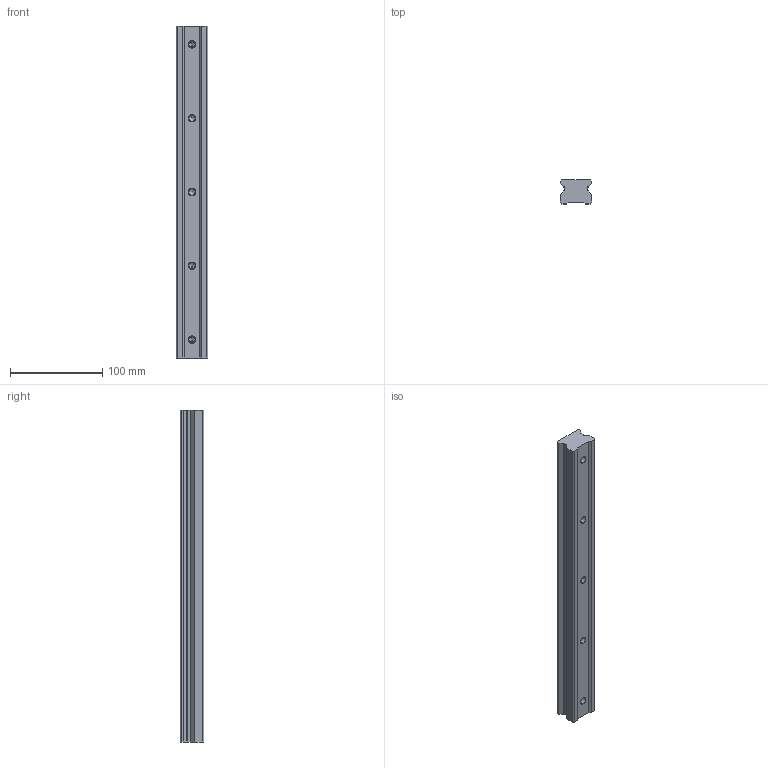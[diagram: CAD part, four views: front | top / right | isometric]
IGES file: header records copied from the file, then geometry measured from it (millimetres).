
Start section: SolidWorks IGES file using analytic representation for surfaces
Global section: file name: C:\Users\IanO\Desktop\Temp File\GENERAL\L1016_v2\L1016.RF35_v2\L1016.RF35_v2_20190612_IGES\L1016.RF35-0360.igs; native system: SolidWorks 2017; preprocessor: SolidWorks 2017; author: IanO; date: 190613.172504; units: millimetre
Bounding box: 34 x 26 x 360 mm (x, y, z)
Surface area: 48470.4 mm2 (no closed solid volume)
Topology: 0 solids, 0 shells, 61 faces, 768 edges, 758 vertices
Faces by surface type: revolution 34, bspline 27
